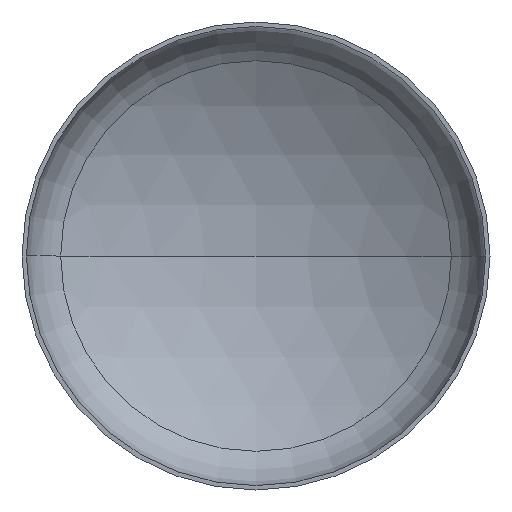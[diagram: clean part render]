
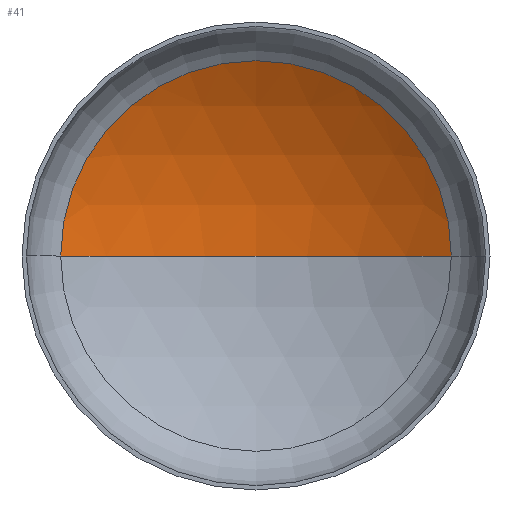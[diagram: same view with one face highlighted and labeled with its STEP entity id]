
A CAD part, front view. The second image highlights one B-rep face of the part: STEP entity #41.
In plain terms, the highlighted spherical face has radius 1280 mm.
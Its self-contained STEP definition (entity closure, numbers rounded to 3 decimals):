
#21 = AXIS2_PLACEMENT_3D ( 'NONE', #75, #140, #148 ) ;
#26 = EDGE_LOOP ( 'NONE', ( #156, #102, #119 ) ) ;
#29 = DIRECTION ( 'NONE',  ( -1., 0., 0. ) ) ;
#34 = DIRECTION ( 'NONE',  ( 0., 0., -1. ) ) ;
#41 = ADVANCED_FACE ( 'NONE', ( #311 ), #195, .F. ) ;
#50 = CARTESIAN_POINT ( 'NONE',  ( -667.826, 254.011, 0. ) ) ;
#67 = AXIS2_PLACEMENT_3D ( 'NONE', #266, #282, #280 ) ;
#69 = AXIS2_PLACEMENT_3D ( 'NONE', #185, #34, #29 ) ;
#75 = CARTESIAN_POINT ( 'NONE',  ( 0., -837.964, 0. ) ) ;
#102 = ORIENTED_EDGE ( 'NONE', *, *, #206, .T. ) ;
#118 = AXIS2_PLACEMENT_3D ( 'NONE', #271, #296, #258 ) ;
#119 = ORIENTED_EDGE ( 'NONE', *, *, #184, .T. ) ;
#120 = VERTEX_POINT ( 'NONE', #256 ) ;
#140 = DIRECTION ( 'NONE',  ( 0., 0., 1. ) ) ;
#142 = CIRCLE ( 'NONE', #69, 1280. ) ;
#148 = DIRECTION ( 'NONE',  ( 1., 0., 0. ) ) ;
#155 = VERTEX_POINT ( 'NONE', #299 ) ;
#156 = ORIENTED_EDGE ( 'NONE', *, *, #362, .F. ) ;
#184 = EDGE_CURVE ( 'NONE', #155, #262, #284, .T. ) ;
#185 = CARTESIAN_POINT ( 'NONE',  ( 0., -837.964, 0. ) ) ;
#195 = SPHERICAL_SURFACE ( 'NONE', #118, 1280. ) ;
#206 = EDGE_CURVE ( 'NONE', #120, #155, #142, .T. ) ;
#256 = CARTESIAN_POINT ( 'NONE',  ( 0., 442.036, 0. ) ) ;
#257 = CIRCLE ( 'NONE', #21, 1280. ) ;
#258 = DIRECTION ( 'NONE',  ( -1., 0., 0. ) ) ;
#262 = VERTEX_POINT ( 'NONE', #50 ) ;
#266 = CARTESIAN_POINT ( 'NONE',  ( 0., 254.011, 0. ) ) ;
#271 = CARTESIAN_POINT ( 'NONE',  ( 0., -837.964, 0. ) ) ;
#280 = DIRECTION ( 'NONE',  ( 1., 0., 0. ) ) ;
#282 = DIRECTION ( 'NONE',  ( 0., -1., 0. ) ) ;
#284 = CIRCLE ( 'NONE', #67, 667.826 ) ;
#296 = DIRECTION ( 'NONE',  ( 0., 0., -1. ) ) ;
#299 = CARTESIAN_POINT ( 'NONE',  ( 667.826, 254.011, 0. ) ) ;
#311 = FACE_OUTER_BOUND ( 'NONE', #26, .T. ) ;
#362 = EDGE_CURVE ( 'NONE', #120, #262, #257, .T. ) ;
